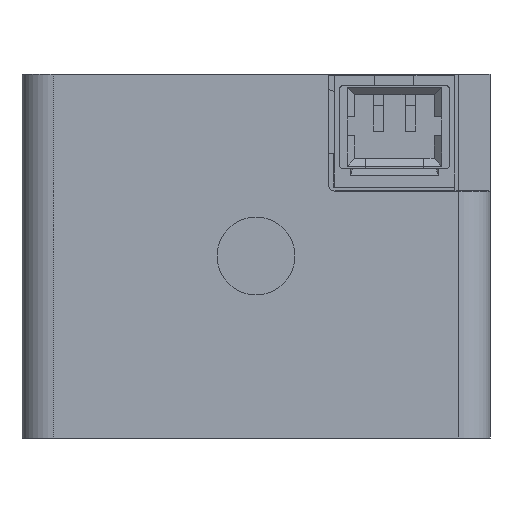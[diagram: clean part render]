
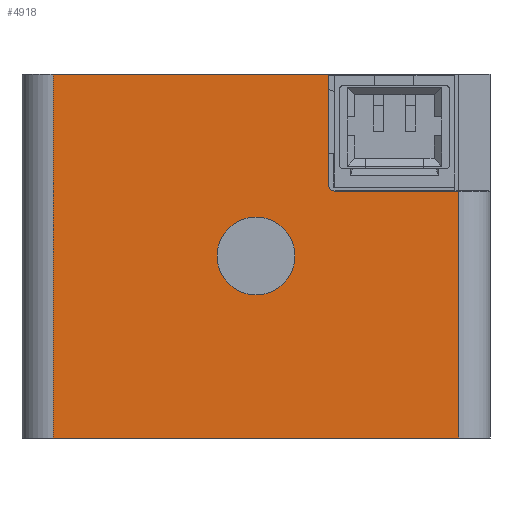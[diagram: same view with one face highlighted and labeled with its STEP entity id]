
A CAD part, front view. The second image highlights one B-rep face of the part: STEP entity #4918.
In plain terms, the highlighted planar face has unit normal (0, -1, 0).
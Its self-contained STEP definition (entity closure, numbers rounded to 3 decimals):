
#54 = VERTEX_POINT ( 'NONE', #3927 ) ;
#74 = CARTESIAN_POINT ( 'NONE',  ( 7.8, -19.9, -9.25 ) ) ;
#125 = ORIENTED_EDGE ( 'NONE', *, *, #3232, .T. ) ;
#153 = ORIENTED_EDGE ( 'NONE', *, *, #3102, .T. ) ;
#287 = CARTESIAN_POINT ( 'NONE',  ( 0., -19.9, -5.5 ) ) ;
#332 = VECTOR ( 'NONE', #2069, 1000. ) ;
#425 = EDGE_CURVE ( 'NONE', #1476, #1033, #6930, .T. ) ;
#490 = CIRCLE ( 'NONE', #4045, 0.2 ) ;
#580 = CARTESIAN_POINT ( 'NONE',  ( -7.8, -19.9, -14. ) ) ;
#636 = CARTESIAN_POINT ( 'NONE',  ( 7.8, -19.9, -14. ) ) ;
#640 = CARTESIAN_POINT ( 'NONE',  ( 0., -19.9, -7. ) ) ;
#687 = AXIS2_PLACEMENT_3D ( 'NONE', #580, #1208, #5613 ) ;
#822 = ORIENTED_EDGE ( 'NONE', *, *, #7017, .F. ) ;
#835 = CARTESIAN_POINT ( 'NONE',  ( 0., -19.9, -14. ) ) ;
#935 = FACE_OUTER_BOUND ( 'NONE', #3340, .T. ) ;
#1006 = DIRECTION ( 'NONE',  ( -1., 0., 0. ) ) ;
#1033 = VERTEX_POINT ( 'NONE', #4027 ) ;
#1208 = DIRECTION ( 'NONE',  ( 0., 1., 0. ) ) ;
#1216 = EDGE_CURVE ( 'NONE', #2570, #4430, #5734, .T. ) ;
#1264 = DIRECTION ( 'NONE',  ( 0., 0., 1. ) ) ;
#1366 = CARTESIAN_POINT ( 'NONE',  ( 6., -19.9, -4.5 ) ) ;
#1476 = VERTEX_POINT ( 'NONE', #287 ) ;
#1601 = ORIENTED_EDGE ( 'NONE', *, *, #1216, .T. ) ;
#1644 = VERTEX_POINT ( 'NONE', #4634 ) ;
#1830 = DIRECTION ( 'NONE',  ( 0., 0., -1. ) ) ;
#1849 = ORIENTED_EDGE ( 'NONE', *, *, #7430, .F. ) ;
#1937 = EDGE_CURVE ( 'NONE', #4229, #1644, #4644, .T. ) ;
#2011 = DIRECTION ( 'NONE',  ( -1., 0., 0. ) ) ;
#2069 = DIRECTION ( 'NONE',  ( 1., 0., 0. ) ) ;
#2114 = CARTESIAN_POINT ( 'NONE',  ( 3., -19.9, -4.3 ) ) ;
#2136 = EDGE_CURVE ( 'NONE', #5349, #54, #4455, .T. ) ;
#2268 = EDGE_LOOP ( 'NONE', ( #2537, #1849 ) ) ;
#2441 = DIRECTION ( 'NONE',  ( 0., -1., 0. ) ) ;
#2537 = ORIENTED_EDGE ( 'NONE', *, *, #425, .F. ) ;
#2570 = VERTEX_POINT ( 'NONE', #6841 ) ;
#2727 = DIRECTION ( 'NONE',  ( 0., 0., 1. ) ) ;
#2886 = ORIENTED_EDGE ( 'NONE', *, *, #5785, .F. ) ;
#2917 = CARTESIAN_POINT ( 'NONE',  ( 2.8, -19.9, 0. ) ) ;
#2963 = VECTOR ( 'NONE', #2011, 1000. ) ;
#3102 = EDGE_CURVE ( 'NONE', #4430, #4229, #3842, .T. ) ;
#3232 = EDGE_CURVE ( 'NONE', #5349, #5625, #7686, .T. ) ;
#3340 = EDGE_LOOP ( 'NONE', ( #822, #6055, #125, #2886, #1601, #153, #3400 ) ) ;
#3400 = ORIENTED_EDGE ( 'NONE', *, *, #1937, .T. ) ;
#3586 = AXIS2_PLACEMENT_3D ( 'NONE', #6225, #2441, #6865 ) ;
#3824 = LINE ( 'NONE', #5402, #5101 ) ;
#3842 = LINE ( 'NONE', #74, #5302 ) ;
#3927 = CARTESIAN_POINT ( 'NONE',  ( 2.8, -19.9, -4.3 ) ) ;
#4027 = CARTESIAN_POINT ( 'NONE',  ( 0., -19.9, -8.5 ) ) ;
#4045 = AXIS2_PLACEMENT_3D ( 'NONE', #2114, #6521, #2727 ) ;
#4104 = FACE_BOUND ( 'NONE', #2268, .T. ) ;
#4227 = CIRCLE ( 'NONE', #6843, 1.5 ) ;
#4229 = VERTEX_POINT ( 'NONE', #7977 ) ;
#4325 = VECTOR ( 'NONE', #1006, 1000. ) ;
#4364 = PLANE ( 'NONE',  #687 ) ;
#4430 = VERTEX_POINT ( 'NONE', #636 ) ;
#4455 = LINE ( 'NONE', #8131, #6109 ) ;
#4479 = DIRECTION ( 'NONE',  ( 0., 0., 1. ) ) ;
#4634 = CARTESIAN_POINT ( 'NONE',  ( 3., -19.9, -4.5 ) ) ;
#4644 = LINE ( 'NONE', #1366, #2963 ) ;
#4918 = ADVANCED_FACE ( 'NONE', ( #4104, #935 ), #4364, .F. ) ;
#5056 = DIRECTION ( 'NONE',  ( 0., -1., 0. ) ) ;
#5101 = VECTOR ( 'NONE', #6047, 1000. ) ;
#5264 = CARTESIAN_POINT ( 'NONE',  ( -7.8, -19.9, 0. ) ) ;
#5302 = VECTOR ( 'NONE', #4479, 1000. ) ;
#5349 = VERTEX_POINT ( 'NONE', #2917 ) ;
#5402 = CARTESIAN_POINT ( 'NONE',  ( -7.8, -19.9, -7. ) ) ;
#5411 = CARTESIAN_POINT ( 'NONE',  ( 0., -19.9, 0. ) ) ;
#5613 = DIRECTION ( 'NONE',  ( 0., 0., 1. ) ) ;
#5625 = VERTEX_POINT ( 'NONE', #5264 ) ;
#5734 = LINE ( 'NONE', #835, #332 ) ;
#5785 = EDGE_CURVE ( 'NONE', #2570, #5625, #3824, .T. ) ;
#6047 = DIRECTION ( 'NONE',  ( 0., 0., 1. ) ) ;
#6055 = ORIENTED_EDGE ( 'NONE', *, *, #2136, .F. ) ;
#6109 = VECTOR ( 'NONE', #1830, 1000. ) ;
#6225 = CARTESIAN_POINT ( 'NONE',  ( 0., -19.9, -7. ) ) ;
#6521 = DIRECTION ( 'NONE',  ( 0., -1., 0. ) ) ;
#6841 = CARTESIAN_POINT ( 'NONE',  ( -7.8, -19.9, -14. ) ) ;
#6843 = AXIS2_PLACEMENT_3D ( 'NONE', #640, #5056, #1264 ) ;
#6865 = DIRECTION ( 'NONE',  ( 0., 0., 1. ) ) ;
#6930 = CIRCLE ( 'NONE', #3586, 1.5 ) ;
#7017 = EDGE_CURVE ( 'NONE', #54, #1644, #490, .T. ) ;
#7430 = EDGE_CURVE ( 'NONE', #1033, #1476, #4227, .T. ) ;
#7686 = LINE ( 'NONE', #5411, #4325 ) ;
#7977 = CARTESIAN_POINT ( 'NONE',  ( 7.8, -19.9, -4.5 ) ) ;
#8131 = CARTESIAN_POINT ( 'NONE',  ( 2.8, -19.9, -7. ) ) ;
